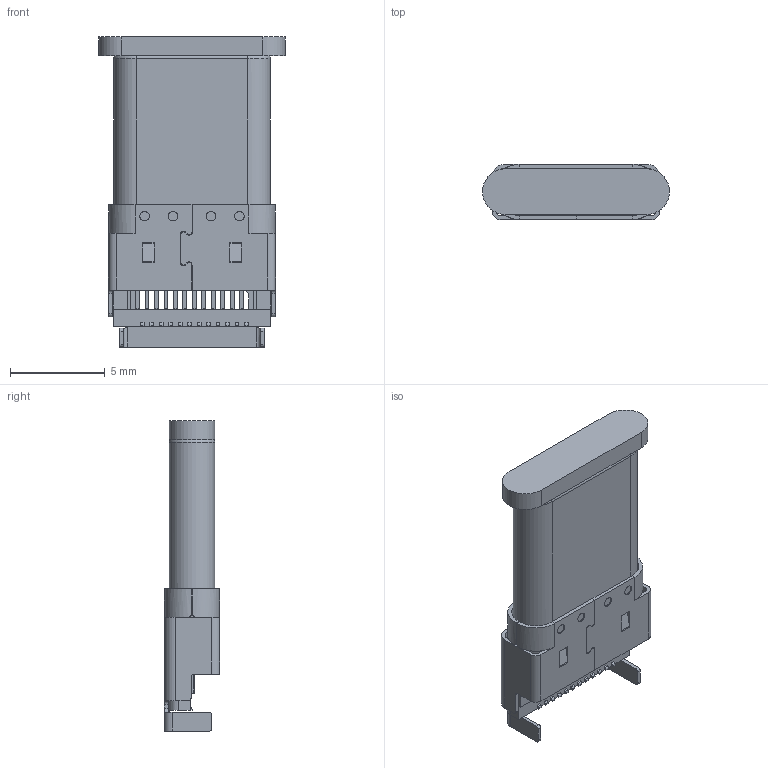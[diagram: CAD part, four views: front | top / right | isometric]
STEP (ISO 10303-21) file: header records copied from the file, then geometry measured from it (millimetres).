
FILE_DESCRIPTION((''),'2;1');
FILE_NAME('TYPE-C_1022402ET003_ASM','2019-07-29T',('Administrator'),(''),'PRO/ENGINEER BY PARAMETRIC TECHNOLOGY CORPORATION, 2010280','PRO/ENGINEER BY PARAMETRIC TECHNOLOGY CORPORATION, 2010280','');
FILE_SCHEMA(('CONFIG_CONTROL_DESIGN'));
Products named in the file (3): MANIFOLD_SOLID_BREP_4085_1; TYPE_C__2; TYPE-C_1022402ET003_ASM
Assembly tree (2 placements, depth 2):
  TYPE-C_1022402ET003_ASM
    MANIFOLD_SOLID_BREP_4085_1
    TYPE_C__2
Bounding box: 9.85 x 2.9 x 16.35 mm (x, y, z)
Volume: 234 mm3; surface area: 1534.8 mm2
Topology: 3 solids, 3 shells, 2453 faces, 6659 edges, 4202 vertices
Faces by surface type: plane 1879, cylinder 460, bspline 74, sphere 16, torus 12, cone 12
Entity records: 77633 total; most frequent: CARTESIAN_POINT 15717, ORIENTED_EDGE 13286, DIRECTION 12193, EDGE_CURVE 6643, VECTOR 5461, LINE 5461, VERTEX_POINT 4202, AXIS2_PLACEMENT_3D 3366
